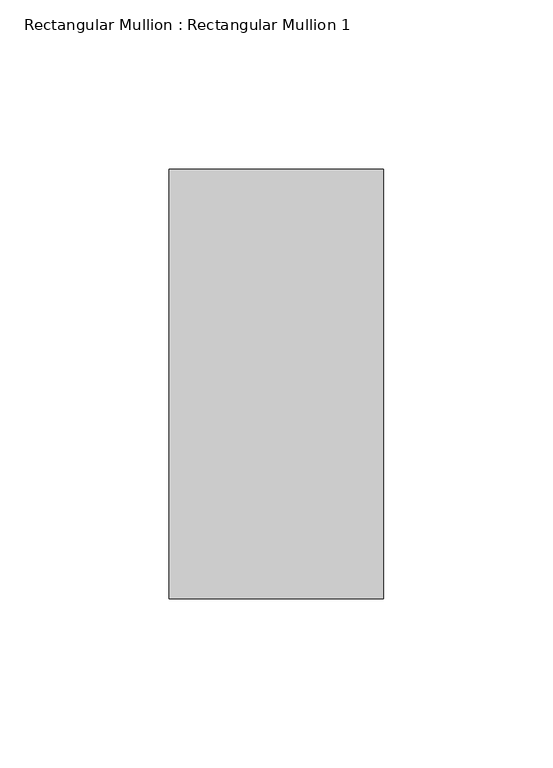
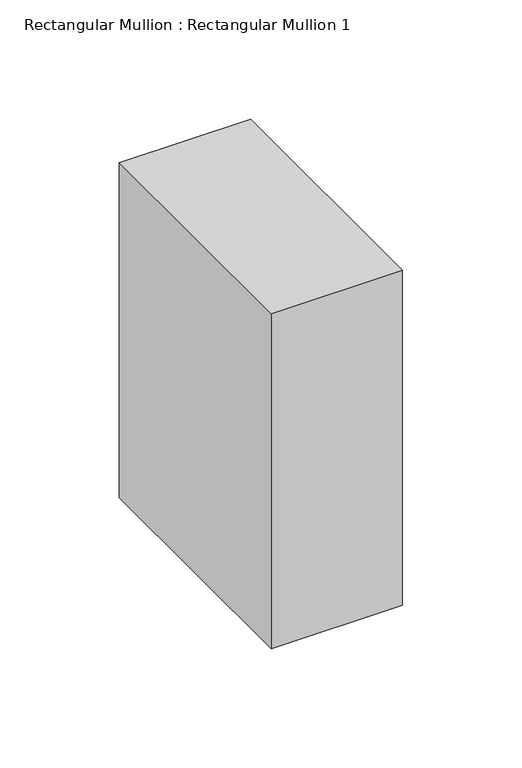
"""IFC4 building model written with IfcOpenShell, lengths in millimetres: member geometry, Rectangular Mullion : Rectangular Mullion 1."""

from ifc_helpers import new_model, si_unit, frame, origin, place, context, project, spatial, polyline, outline, extrude, source, transform, mapped, element, save


def rectangular_mullion_rectangular_mullion_1_783bfc0b(model_context):
    return source(origin(), model_context, "Body", "SweptSolid", [
        extrude(outline(polyline([(31.75, 63.5), (31.75, -63.5), (-31.75, -63.5), (-31.75, 63.5), (31.75, 63.5)])), frame((0.0, 0.0, -171.3104781), z_axis=(0.0, 0.0, 1.0), x_axis=(1.0, 0.0, 0.0)), (0.0, 0.0, 1.0), 171.3104781),
    ])


if __name__ == "__main__":
    model = new_model("IFC4")
    model_context = context("Model", 3, world=origin())
    ifc_project = project(units=[si_unit("LENGTHUNIT", "METRE", prefix="MILLI")], contexts=[model_context])
    site = spatial("IfcSite", under=ifc_project)
    building = spatial("IfcBuilding", under=site)
    placement = place(None, origin())
    rectangular_mullion_rectangular_mullion_1_shape = rectangular_mullion_rectangular_mullion_1_783bfc0b(model_context)
    element("IfcMember", 1, ObjectType="Rectangular Mullion : Rectangular Mullion 1", at=placement, inside=building, context=model_context, shape_type="MappedRepresentation", body=[
        mapped(rectangular_mullion_rectangular_mullion_1_shape, transform((0.0, 0.0, 0.0), x_axis=(1.0, 0.0, 0.0), y_axis=(0.0, 1.0, 0.0), z_axis=(0.0, 0.0, 1.0))),
    ])
    save(model, "model.ifc")
